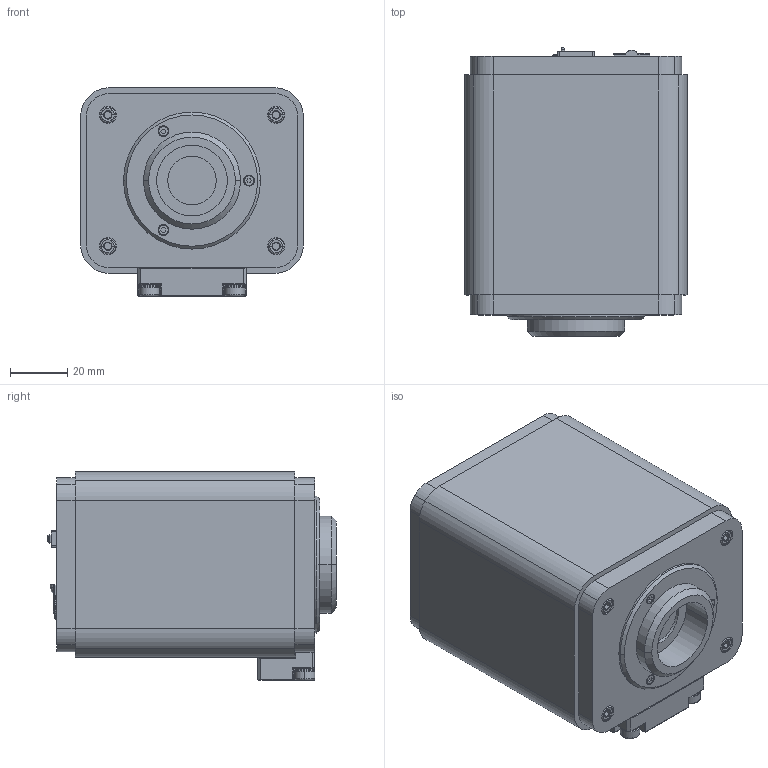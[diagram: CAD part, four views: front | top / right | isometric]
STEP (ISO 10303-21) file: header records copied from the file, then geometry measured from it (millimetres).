
FILE_DESCRIPTION(('STEP AP214'),'1');
FILE_NAME('PT800.stp','2022-10-21T05:13:24',(' '),(' '),'Spatial InterOp 3D',' ',' ');
FILE_SCHEMA(('AUTOMOTIVE_DESIGN { 1 0 10303 214 1 1 1 1 }'));
Length unit declared in the file: metre
Products named in the file (2): PT800; Component1
Assembly tree (1 placements, depth 2):
  PT800
    Component1
Bounding box: 78 x 101.1 x 73 mm (x, y, z)
Volume: 447430.8 mm3; surface area: 48174.2 mm2
Topology: 1 solids, 5 shells, 1786 faces, 4983 edges, 3223 vertices
Faces by surface type: cylinder 836, plane 801, torus 77, cone 44, sphere 23, bspline 5
Entity records: 60310 total; most frequent: CARTESIAN_POINT 12882, DIRECTION 10318, ORIENTED_EDGE 9918, EDGE_CURVE 4959, AXIS2_PLACEMENT_3D 3683, VERTEX_POINT 3223, LINE 2952, VECTOR 2952
